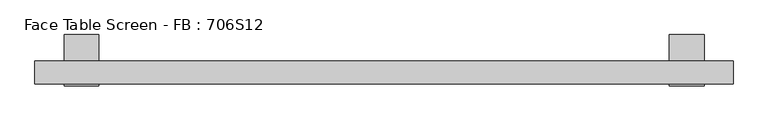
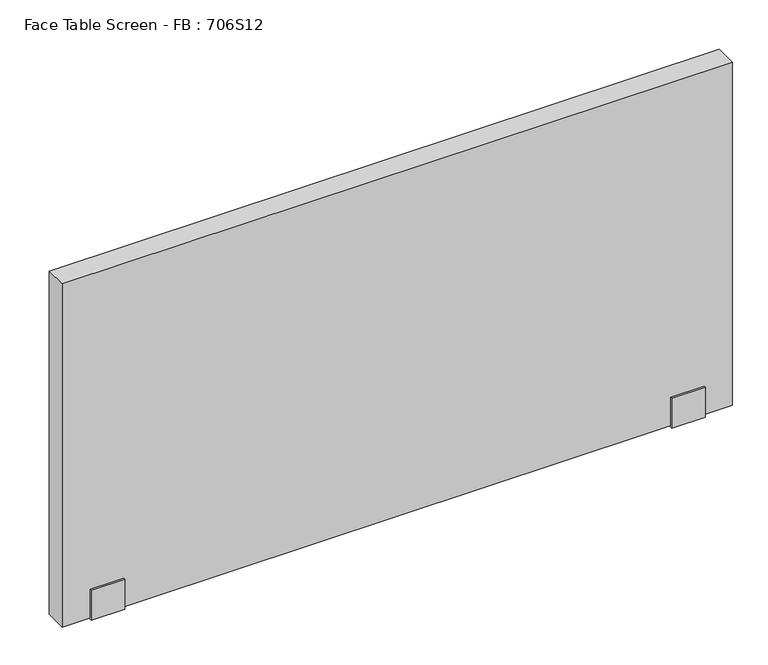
"""IFC4 building model written with IfcOpenShell, lengths in millimetres: furniture geometry, Face Table Screen - FB : 706S12."""

from ifc_helpers import new_model, si_unit, frame, origin, place, context, project, spatial, polyline, outline, extrude, source, transform, mapped, element, save


def face_table_screen_fb_706s12_b80f97d4(model_context):
    return source(origin(), model_context, "Body", "SweptSolid", [
        extrude(outline(polyline([(-42.9999947, -156.0), (-42.9999997, -99.0433898), (-40.0, -99.0433898), (-40.0, -153.0), (0.0, -153.0), (0.0, -22.0), (45.0, -22.0), (45.0, -25.0433898), (3.0000062, -25.0433898), (2.9999947, -156.0), (-42.9999947, -156.0)])), frame((509.9863751, 0.0, 0.0), z_axis=(1.0, 0.0, 0.0), x_axis=(0.0, 1.0, 0.0)), (0.0, 0.0, 1.0), 60.0),
        extrude(outline(polyline([(-42.9999947, -156.0), (-42.9999997, -99.0433898), (-40.0, -99.0433898), (-40.0, -153.0), (0.0, -153.0), (0.0, -22.0), (45.0, -22.0), (45.0, -25.0433898), (3.0000062, -25.0433898), (2.9999947, -156.0), (-42.9999947, -156.0)])), frame((-530.0136249, 0.0, 0.0), z_axis=(1.0, 0.0, 0.0), x_axis=(0.0, 1.0, 0.0)), (0.0, 0.0, 1.0), 60.0),
        extrude(outline(polyline([(619.9863751, -40.0), (-580.0136249, -40.0), (-580.0136249, 0.0), (619.9863751, 0.0), (619.9863751, -40.0)])), frame((0.0, 0.0, -153.0), z_axis=(0.0, 0.0, 1.0), x_axis=(1.0, 0.0, 0.0)), (0.0, 0.0, 1.0), 650.0),
    ])


if __name__ == "__main__":
    model = new_model("IFC4")
    model_context = context("Model", 3, world=origin())
    ifc_project = project(units=[si_unit("LENGTHUNIT", "METRE", prefix="MILLI")], contexts=[model_context])
    site = spatial("IfcSite", under=ifc_project)
    building = spatial("IfcBuilding", under=site)
    placement = place(None, origin())
    face_table_screen_fb_706s12_shape = face_table_screen_fb_706s12_b80f97d4(model_context)
    element("IfcFurniture", 1, ObjectType="Face Table Screen - FB : 706S12", at=placement, inside=building, context=model_context, shape_type="MappedRepresentation", body=[
        mapped(face_table_screen_fb_706s12_shape, transform((0.0, 0.0, 0.0), x_axis=(1.0, 0.0, 0.0), y_axis=(0.0, 1.0, 0.0), z_axis=(0.0, 0.0, 1.0))),
    ])
    save(model, "model.ifc")
